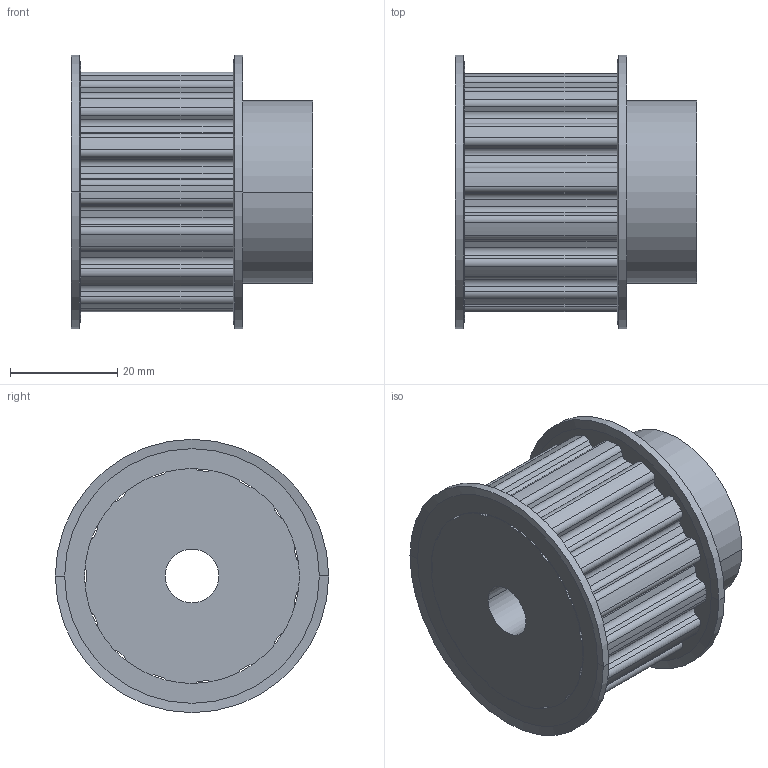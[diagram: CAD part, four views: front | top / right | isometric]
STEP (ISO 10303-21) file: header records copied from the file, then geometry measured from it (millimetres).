
FILE_DESCRIPTION( ( '' ), '1' );
FILE_NAME( 'C:/Users/Stangenbergd/Documents/CAD_Step/1/18231500.stp', '2021-10-19T10:39:20', ( '' ), ( '' ), ' ', ' ', ' ' );
FILE_SCHEMA( ( 'CONFIG_CONTROL_DESIGN' ) );
Length unit declared in the file: millimetre
Products named in the file (1): 1
Bounding box: 45.1 x 51 x 51 mm (x, y, z)
Volume: 55148.6 mm3; surface area: 13847.8 mm2
Topology: 1 solids, 1 shells, 208 faces, 715 edges, 454 vertices
Faces by surface type: cylinder 148, plane 52, cone 8
Entity records: 8007 total; most frequent: DIRECTION 1497, ORIENTED_EDGE 1430, CARTESIAN_POINT 1378, EDGE_CURVE 715, AXIS2_PLACEMENT_3D 573, VERTEX_POINT 454, CIRCLE 364, LINE 351
